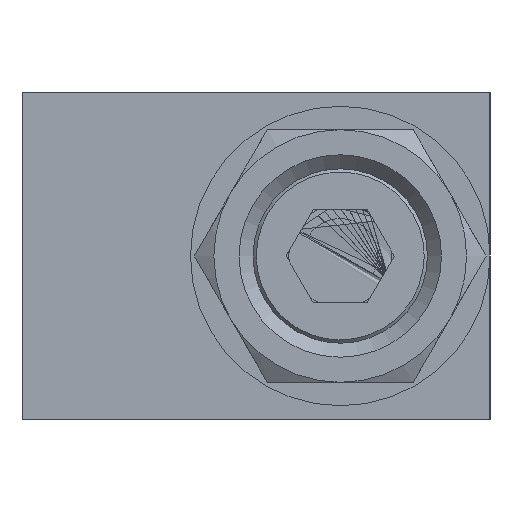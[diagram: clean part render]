
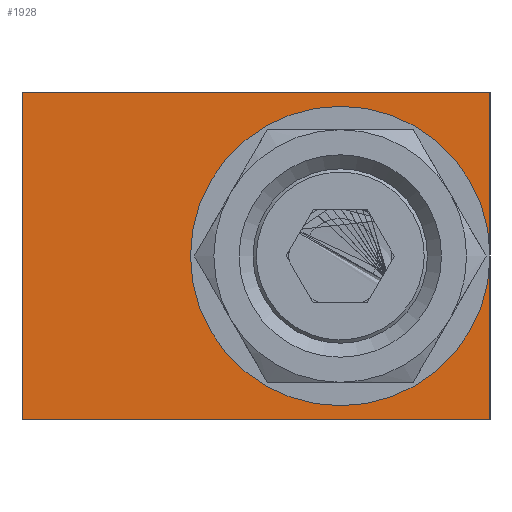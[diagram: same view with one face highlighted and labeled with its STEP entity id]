
A CAD part, left-side view. The second image highlights one B-rep face of the part: STEP entity #1928.
In plain terms, the highlighted planar face has unit normal (-1, 0, 0).
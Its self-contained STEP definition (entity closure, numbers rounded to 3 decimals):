
#86=PLANE('',#2108);
#233=FACE_OUTER_BOUND('',#339,.T.);
#339=EDGE_LOOP('',(#1323,#1324,#1325,#1326,#1327,#1328,#1329));
#433=CIRCLE('',#2058,16.);
#463=CIRCLE('',#2103,16.);
#562=LINE('',#2958,#644);
#570=LINE('',#2985,#652);
#571=LINE('',#2986,#653);
#572=LINE('',#2987,#654);
#573=LINE('',#2988,#655);
#644=VECTOR('',#2368,10.);
#652=VECTOR('',#2398,10.);
#653=VECTOR('',#2399,10.);
#654=VECTOR('',#2400,10.);
#655=VECTOR('',#2401,10.);
#712=VERTEX_POINT('',#2782);
#714=VERTEX_POINT('',#2785);
#749=VERTEX_POINT('',#2955);
#750=VERTEX_POINT('',#2957);
#757=VERTEX_POINT('',#2983);
#758=VERTEX_POINT('',#2984);
#922=EDGE_CURVE('',#714,#712,#433,.T.);
#970=EDGE_CURVE('',#750,#749,#562,.T.);
#976=EDGE_CURVE('',#712,#714,#463,.T.);
#984=EDGE_CURVE('',#757,#758,#570,.T.);
#985=EDGE_CURVE('',#750,#758,#571,.T.);
#986=EDGE_CURVE('',#714,#749,#572,.T.);
#987=EDGE_CURVE('',#757,#714,#573,.T.);
#1323=ORIENTED_EDGE('',*,*,#984,.T.);
#1324=ORIENTED_EDGE('',*,*,#985,.F.);
#1325=ORIENTED_EDGE('',*,*,#970,.T.);
#1326=ORIENTED_EDGE('',*,*,#986,.F.);
#1327=ORIENTED_EDGE('',*,*,#922,.T.);
#1328=ORIENTED_EDGE('',*,*,#976,.T.);
#1329=ORIENTED_EDGE('',*,*,#987,.F.);
#1928=ADVANCED_FACE('',(#233),#86,.T.);
#2058=AXIS2_PLACEMENT_3D('',#2786,#2275,#2276);
#2103=AXIS2_PLACEMENT_3D('',#2968,#2381,#2382);
#2108=AXIS2_PLACEMENT_3D('',#2982,#2396,#2397);
#2275=DIRECTION('center_axis',(1.,0.,0.));
#2276=DIRECTION('ref_axis',(0.,0.,1.));
#2368=DIRECTION('',(0.,-1.,0.));
#2381=DIRECTION('center_axis',(1.,0.,0.));
#2382=DIRECTION('ref_axis',(0.,0.,1.));
#2396=DIRECTION('center_axis',(-1.,0.,0.));
#2397=DIRECTION('ref_axis',(0.,0.,1.));
#2398=DIRECTION('',(0.,1.,0.));
#2399=DIRECTION('',(0.,0.,1.));
#2400=DIRECTION('',(0.,0.,-1.));
#2401=DIRECTION('',(0.,0.,-1.));
#2782=CARTESIAN_POINT('',(-40.,-9.,-16.));
#2785=CARTESIAN_POINT('',(-40.,-25.,0.));
#2786=CARTESIAN_POINT('Origin',(-40.,-9.,0.));
#2955=CARTESIAN_POINT('',(-40.,-25.,-17.5));
#2957=CARTESIAN_POINT('',(-40.,25.,-17.5));
#2958=CARTESIAN_POINT('',(-40.,25.,-17.5));
#2968=CARTESIAN_POINT('Origin',(-40.,-9.,0.));
#2982=CARTESIAN_POINT('Origin',(-40.,-25.,0.));
#2983=CARTESIAN_POINT('',(-40.,-25.,17.5));
#2984=CARTESIAN_POINT('',(-40.,25.,17.5));
#2985=CARTESIAN_POINT('',(-40.,25.,17.5));
#2986=CARTESIAN_POINT('',(-40.,25.,0.));
#2987=CARTESIAN_POINT('',(-40.,-25.,0.));
#2988=CARTESIAN_POINT('',(-40.,-25.,0.));
